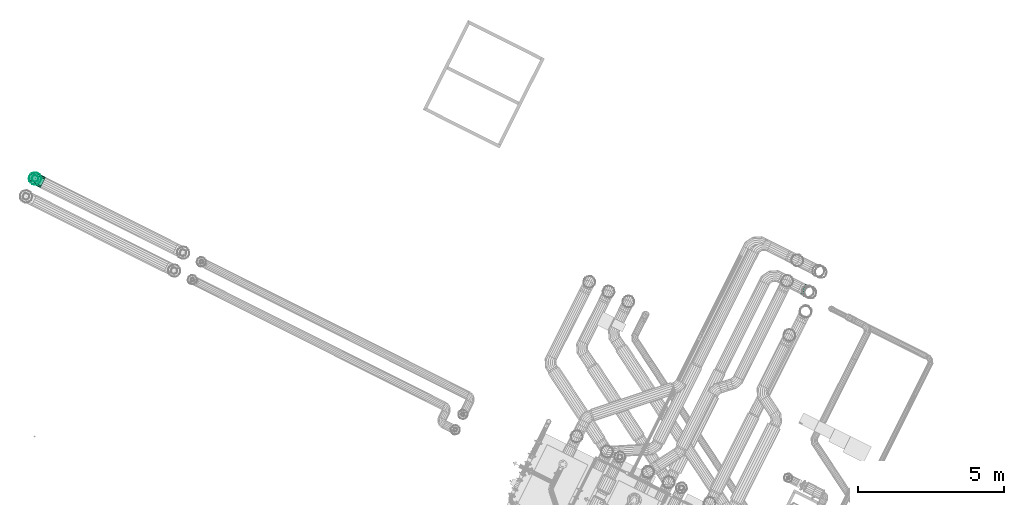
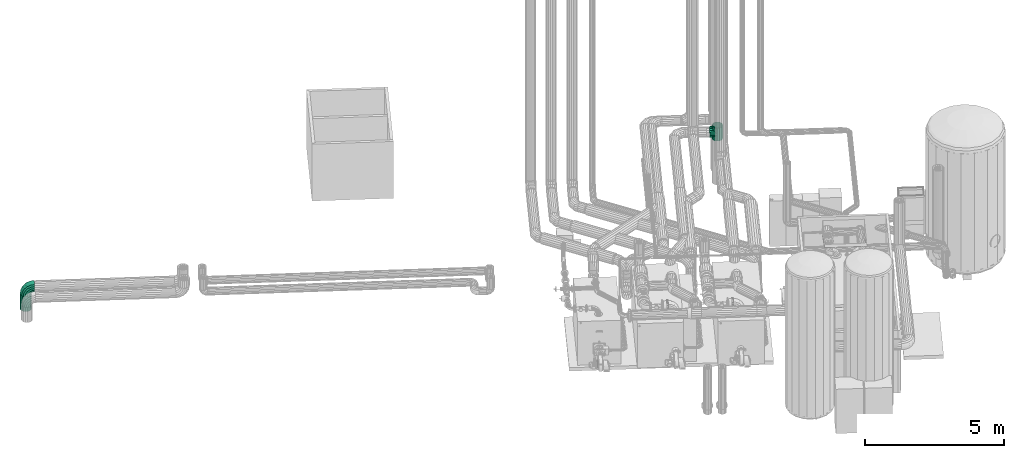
# One storey, part 171 of 206: 2 flow segments, 1 flow fitting.
"""IFC2X3 building model written with IfcOpenShell, lengths in metres."""

from ifc_helpers import new_model, si_unit, derived_unit, direction, frame, origin, place, context, subcontext, project, spatial, face_set, surface_model, source, transform, mapped, material, type_object, type_shapes, element, save


model = new_model("IFC2X3")

# Units and contexts
model_context = context("Model", 3, precision=5.2338327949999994e-05, world=origin(), true_north=direction((0.0, 1.0)))
body_context = subcontext(model_context, "Body", "Model", "MODEL_VIEW")
ifc_project = project(units=[si_unit("LENGTHUNIT", "METRE"), si_unit("AREAUNIT", "SQUARE_METRE"), si_unit("VOLUMEUNIT", "CUBIC_METRE"), si_unit("MASSUNIT", "GRAM", prefix="KILO"), si_unit("PLANEANGLEUNIT", "RADIAN"), derived_unit("THERMALTRANSMITTANCEUNIT", [(si_unit("MASSUNIT", "GRAM", prefix="KILO"), 1), (si_unit("THERMODYNAMICTEMPERATUREUNIT", "KELVIN"), -1), (si_unit("TIMEUNIT", "SECOND"), -3)])], contexts=[model_context])

# Site, building, storey
site_placement = place(None, frame((0.0, 0.0, 0.0), z_axis=(0.0, 0.0, 1.0), x_axis=(0.8939966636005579, -0.4480736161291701, 0.0)))
site = spatial("IfcSite", under=ifc_project, at=site_placement, Name="Default", CompositionType="ELEMENT")
building_placement = place(site_placement, origin())
building = spatial("IfcBuilding", under=site, at=building_placement, CompositionType="ELEMENT")
storey_placement = place(building_placement, origin())
storey = spatial("IfcBuildingStorey", under=building, at=storey_placement, Name="Erdgeschoss", CompositionType="ELEMENT", Elevation=0.0)

# Flow segments
ifc_material_1 = material(Name="IfcSurfaceStyle #1741")
distribution_element_type_1 = type_object("IfcDistributionElementType", Name="Rohrbogen 292566:Rohrbogen 292566", material=ifc_material_1)
shared_shape_1 = source(origin(), body_context, "Body", "SurfaceModel", [
    surface_model("IfcFaceBasedSurfaceModel", [(1.2212699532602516, 8.012208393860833, 2.4273484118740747), (1.221269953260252, 8.049676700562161, 2.4207417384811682), (1.0952085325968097, 8.049676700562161, 2.4007755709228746), (1.093166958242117, 8.012208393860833, 2.407058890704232), (0.9814868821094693, 8.04967670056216, 2.342831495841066), (0.9776035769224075, 8.012208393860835, 2.34817640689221), (0.8912368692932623, 8.04967670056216, 2.252581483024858), (0.8858919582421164, 8.012208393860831, 2.2564647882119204), (0.8332927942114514, 8.049676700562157, 2.1388598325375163), (0.8270094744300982, 8.012208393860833, 2.1409014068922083), (0.813326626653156, 8.049676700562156, 2.0127984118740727), (0.8067199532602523, 8.012208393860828, 2.0127984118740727), (1.2212699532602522, 8.082625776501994, 2.4017185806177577), (1.1010870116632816, 8.082625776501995, 2.3826834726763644), (0.9926684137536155, 8.082625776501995, 2.3274414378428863), (0.9066269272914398, 8.082625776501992, 2.2413999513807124), (0.851384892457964, 8.082625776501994, 2.132981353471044), (0.8323497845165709, 8.08262577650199, 2.0127984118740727), (1.2212699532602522, 8.107081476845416, 2.372573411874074), (1.1100933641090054, 8.10708147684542, 2.3549647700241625), (1.0097995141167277, 8.10708147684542, 2.30386250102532), (0.9302058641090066, 8.107081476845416, 2.224268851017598), (0.8791035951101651, 8.107081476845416, 2.12397500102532), (0.8614949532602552, 8.107081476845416, 2.0127984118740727), (1.2212699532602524, 8.12009408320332, 2.336821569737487), (1.1211412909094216, 8.120094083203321, 2.3209627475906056), (1.0308139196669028, 8.12009408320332, 2.2749386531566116), (0.9591297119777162, 8.12009408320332, 2.2032544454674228), (0.9131056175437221, 8.120094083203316, 2.1129270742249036), (0.8972467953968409, 8.120094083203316, 2.0127984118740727), (1.2212699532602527, 8.12009408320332, 2.298775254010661), (1.1328982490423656, 8.12009408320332, 2.2847785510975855), (1.0531769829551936, 8.120094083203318, 2.2441585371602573), (0.9899098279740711, 8.120094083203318, 2.1808913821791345), (0.9492898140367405, 8.120094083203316, 2.101170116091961), (0.9352931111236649, 8.120094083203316, 2.012798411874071), (1.2212699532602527, 8.107081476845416, 2.2630234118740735), (1.143946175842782, 8.107081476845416, 2.2507765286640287), (1.0741913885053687, 8.107081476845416, 2.2152346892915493), (1.0188336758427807, 8.107081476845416, 2.159876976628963), (0.983291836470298, 8.107081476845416, 2.090122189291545), (0.9710449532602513, 8.107081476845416, 2.0127984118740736), (1.2212699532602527, 8.082625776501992, 2.23387824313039), (1.1529525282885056, 8.082625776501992, 2.223057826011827), (1.0913224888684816, 8.082625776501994, 2.191655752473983), (1.0424126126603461, 8.082625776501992, 2.142745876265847), (1.0110105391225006, 8.082625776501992, 2.081115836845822), (1.000190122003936, 8.08262577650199, 2.012798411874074), (1.2212699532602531, 8.049676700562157, 2.2148550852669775), (1.158831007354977, 8.049676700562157, 2.204965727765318), (1.1025040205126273, 8.049676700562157, 2.1762656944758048), (1.0578026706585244, 8.04967670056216, 2.131564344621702), (1.0291026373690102, 8.049676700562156, 2.0752373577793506), (1.0192132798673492, 8.049676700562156, 2.012798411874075), (1.2212699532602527, 8.012208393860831, 2.2082484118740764), (1.160872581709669, 8.012208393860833, 2.1986824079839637), (1.1063873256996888, 8.012208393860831, 2.1709207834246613), (1.0631475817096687, 8.012208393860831, 2.1276810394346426), (1.0353859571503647, 8.012208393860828, 2.0731957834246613), (1.0258199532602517, 8.01220839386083, 2.012798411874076), (1.2212699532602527, 7.974740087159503, 2.2148550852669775), (1.1588310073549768, 7.974740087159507, 2.2049657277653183), (1.1025040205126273, 7.974740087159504, 2.176265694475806), (1.057802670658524, 7.974740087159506, 2.1315643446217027), (1.02910263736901, 7.974740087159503, 2.0752373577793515), (1.0192132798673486, 7.974740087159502, 2.012798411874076), (1.2212699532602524, 7.94179101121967, 2.233878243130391), (1.1529525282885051, 7.941791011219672, 2.22305782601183), (1.0913224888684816, 7.941791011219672, 2.1916557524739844), (1.0424126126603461, 7.94179101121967, 2.142745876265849), (1.0110105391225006, 7.941791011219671, 2.081115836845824), (1.0001901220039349, 7.941791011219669, 2.012798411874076), (1.2212699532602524, 7.917335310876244, 2.2630234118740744), (1.1439461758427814, 7.917335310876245, 2.250776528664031), (1.0741913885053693, 7.917335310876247, 2.2152346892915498), (1.018833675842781, 7.917335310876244, 2.1598769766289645), (0.9832918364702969, 7.917335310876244, 2.090122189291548), (0.9710449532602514, 7.917335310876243, 2.0127984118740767), (1.2212699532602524, 7.904322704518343, 2.2987752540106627), (1.132898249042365, 7.904322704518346, 2.2847785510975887), (1.053176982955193, 7.904322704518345, 2.2441585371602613), (0.9899098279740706, 7.904322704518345, 2.180891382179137), (0.9492898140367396, 7.904322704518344, 2.1011701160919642), (0.9352931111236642, 7.904322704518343, 2.012798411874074), (1.2212699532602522, 7.904322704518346, 2.336821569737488), (1.1211412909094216, 7.904322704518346, 2.320962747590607), (1.0308139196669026, 7.904322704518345, 2.2749386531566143), (0.9591297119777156, 7.904322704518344, 2.203254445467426), (0.9131056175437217, 7.904322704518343, 2.1129270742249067), (0.8972467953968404, 7.904322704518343, 2.0127984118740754), (1.2212699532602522, 7.917335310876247, 2.372573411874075), (1.1100933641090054, 7.917335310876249, 2.3549647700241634), (1.0097995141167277, 7.917335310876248, 2.303862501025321), (0.9302058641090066, 7.917335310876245, 2.224268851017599), (0.8791035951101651, 7.917335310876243, 2.123975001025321), (0.8614949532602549, 7.917335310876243, 2.0127984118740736), (1.2212699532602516, 7.941791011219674, 2.401718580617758), (1.1010870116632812, 7.941791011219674, 2.3826834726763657), (0.9926684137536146, 7.9417910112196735, 2.327441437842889), (0.9066269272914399, 7.941791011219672, 2.241399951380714), (0.8513848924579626, 7.941791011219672, 2.1329813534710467), (0.8323497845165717, 7.941791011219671, 2.012798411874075), (1.2212699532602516, 7.974740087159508, 2.4207417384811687), (1.0952085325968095, 7.974740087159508, 2.400775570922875), (0.9814868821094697, 7.974740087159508, 2.342831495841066), (0.8912368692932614, 7.974740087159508, 2.25258148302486), (0.833292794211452, 7.974740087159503, 2.1388598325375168), (0.8133266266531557, 7.974740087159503, 2.0127984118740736), (1.221269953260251, 8.012208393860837, 2.5273484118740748), (1.2212699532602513, 8.083878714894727, 2.5147110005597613), (1.0661704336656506, 8.083878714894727, 2.490145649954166), (1.0622652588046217, 8.012208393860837, 2.5021645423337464), (0.9262531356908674, 8.083878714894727, 2.418854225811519), (0.9188250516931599, 8.012208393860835, 2.429078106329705), (0.8152141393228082, 8.083878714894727, 2.3078152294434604), (0.8049902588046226, 8.012208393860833, 2.3152433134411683), (0.7439227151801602, 8.083878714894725, 2.167897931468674), (0.7319038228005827, 8.012208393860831, 2.171803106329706), (0.7193573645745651, 8.083878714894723, 2.012798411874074), (0.7067199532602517, 8.01220839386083, 2.012798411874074), (1.2212699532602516, 8.146904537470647, 2.4783230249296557), (1.0774149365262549, 8.146904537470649, 2.455538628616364), (0.9476414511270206, 8.146904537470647, 2.3894157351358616), (0.844652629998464, 8.146904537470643, 2.2864269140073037), (0.7785297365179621, 8.146904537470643, 2.156653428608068), (0.755745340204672, 8.146904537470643, 2.0127984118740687), (1.2212699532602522, 8.193684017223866, 2.4225734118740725), (1.0946425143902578, 8.193684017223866, 2.402517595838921), (0.9804102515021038, 8.193684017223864, 2.3443133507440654), (0.8897550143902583, 8.193684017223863, 2.2536581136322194), (0.831550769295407, 8.19368401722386, 2.1394258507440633), (0.8114949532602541, 8.19368401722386, 2.0127984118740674), (1.2212699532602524, 8.21857485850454, 2.354186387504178), (1.1157752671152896, 8.21857485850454, 2.3374776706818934), (1.0206071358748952, 8.218574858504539, 2.288987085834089), (0.945081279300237, 8.218574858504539, 2.213461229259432), (0.8965906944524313, 8.218574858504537, 2.1182930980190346), (0.8798819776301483, 8.218574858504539, 2.0127984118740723), (1.2212699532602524, 8.218574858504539, 2.2814104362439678), (1.1382642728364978, 8.218574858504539, 2.268263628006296), (1.0633837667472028, 8.21857485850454, 2.2301101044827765), (1.0039582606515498, 8.218574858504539, 2.1706845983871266), (0.9658047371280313, 8.218574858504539, 2.095804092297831), (0.952657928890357, 8.218574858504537, 2.0127984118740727), (1.2212699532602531, 8.193684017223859, 2.213023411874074), (1.1593970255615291, 8.193684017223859, 2.2032237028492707), (1.1035806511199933, 8.19368401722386, 2.1747838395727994), (1.0592845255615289, 8.19368401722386, 2.130487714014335), (1.0308446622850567, 8.19368401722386, 2.0746713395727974), (1.0210449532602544, 8.19368401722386, 2.012798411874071), (1.2212699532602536, 8.146904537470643, 2.15727379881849), (1.1766246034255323, 8.146904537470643, 2.1502026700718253), (1.1363494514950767, 8.146904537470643, 2.129681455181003), (1.104386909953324, 8.146904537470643, 2.09771891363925), (1.083865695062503, 8.146904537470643, 2.057443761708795), (1.0767945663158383, 8.146904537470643, 2.0127984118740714), (1.2212699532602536, 8.083878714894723, 2.120885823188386), (1.1878691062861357, 8.083878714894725, 2.1155956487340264), (1.1577377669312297, 8.083878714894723, 2.1002429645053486), (1.133825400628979, 8.083878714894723, 2.0763305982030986), (1.1184727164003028, 8.083878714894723, 2.0461992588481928), (1.113182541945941, 8.083878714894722, 2.0127984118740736), (1.2212699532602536, 8.01220839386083, 2.1082484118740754), (1.1917742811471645, 8.012208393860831, 2.103576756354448), (1.1651658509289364, 8.01220839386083, 2.0900190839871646), (1.1440492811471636, 8.012208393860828, 2.068902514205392), (1.1304916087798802, 8.01220839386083, 2.042294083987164), (1.1258199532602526, 8.01220839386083, 2.0127984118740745), (1.2212699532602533, 7.940538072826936, 2.1208858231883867), (1.1878691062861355, 7.940538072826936, 2.1155956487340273), (1.157737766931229, 7.940538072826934, 2.1002429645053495), (1.133825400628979, 7.940538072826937, 2.0763305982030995), (1.118472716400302, 7.940538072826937, 2.0461992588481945), (1.1131825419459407, 7.940538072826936, 2.012798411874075), (1.2212699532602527, 7.877512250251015, 2.1572737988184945), (1.1766246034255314, 7.877512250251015, 2.150202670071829), (1.1363494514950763, 7.877512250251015, 2.1296814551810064), (1.1043869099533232, 7.877512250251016, 2.0977189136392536), (1.0838656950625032, 7.877512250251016, 2.0574437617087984), (1.0767945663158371, 7.877512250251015, 2.0127984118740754), (1.2212699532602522, 7.830732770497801, 2.213023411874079), (1.1593970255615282, 7.830732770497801, 2.203223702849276), (1.1035806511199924, 7.830732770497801, 2.174783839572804), (1.0592845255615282, 7.830732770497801, 2.13048771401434), (1.030844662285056, 7.830732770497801, 2.0746713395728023), (1.0210449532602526, 7.8307327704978, 2.012798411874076), (1.221269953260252, 7.805841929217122, 2.2814104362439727), (1.1382642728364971, 7.805841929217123, 2.268263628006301), (1.063383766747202, 7.805841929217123, 2.230110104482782), (1.003958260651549, 7.805841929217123, 2.170684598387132), (0.96580473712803, 7.805841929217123, 2.095804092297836), (0.9526579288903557, 7.805841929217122, 2.0127984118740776), (1.2212699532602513, 7.805841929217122, 2.3541863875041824), (1.1157752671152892, 7.805841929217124, 2.337477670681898), (1.0206071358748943, 7.805841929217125, 2.288987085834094), (0.9450812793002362, 7.805841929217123, 2.213461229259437), (0.8965906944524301, 7.805841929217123, 2.1182930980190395), (0.8798819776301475, 7.805841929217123, 2.012798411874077), (1.2212699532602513, 7.830732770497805, 2.4225734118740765), (1.094642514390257, 7.830732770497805, 2.402517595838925), (0.9804102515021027, 7.8307327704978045, 2.3443133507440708), (0.8897550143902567, 7.830732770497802, 2.2536581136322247), (0.8315507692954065, 7.8307327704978, 2.1394258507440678), (0.8114949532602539, 7.830732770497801, 2.012798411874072), (1.2212699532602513, 7.877512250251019, 2.4783230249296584), (1.0774149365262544, 7.87751225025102, 2.455538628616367), (0.9476414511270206, 7.87751225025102, 2.389415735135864), (0.8446526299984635, 7.877512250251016, 2.2864269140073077), (0.7785297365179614, 7.877512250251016, 2.1566534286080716), (0.7557453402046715, 7.877512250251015, 2.0127984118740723), (1.221269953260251, 7.940538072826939, 2.514711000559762), (1.0661704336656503, 7.940538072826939, 2.4901456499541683), (0.9262531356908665, 7.940538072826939, 2.418854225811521), (0.815214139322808, 7.940538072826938, 2.3078152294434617), (0.7439227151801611, 7.9405380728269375, 2.167897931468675), (0.7193573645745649, 7.9405380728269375, 2.0127984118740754)], [face_set([[[0, 1, 2, 3]], [[3, 2, 4, 5]], [[5, 4, 6, 7]], [[7, 6, 8, 9]], [[9, 8, 10, 11]], [[1, 12, 13, 2]], [[2, 13, 14, 4]], [[4, 14, 15, 6]], [[6, 15, 16, 8]], [[8, 16, 17, 10]], [[12, 18, 19, 13]], [[13, 19, 20, 14]], [[14, 20, 21, 15]], [[15, 21, 22, 16]], [[16, 22, 23, 17]], [[18, 24, 25, 19]], [[19, 25, 26, 20]], [[20, 26, 27, 21]], [[21, 27, 28, 22]], [[22, 28, 29, 23]], [[24, 30, 31, 25]], [[25, 31, 32, 26]], [[26, 32, 33, 27]], [[27, 33, 34, 28]], [[28, 34, 35, 29]], [[30, 36, 37, 31]], [[31, 37, 38, 32]], [[32, 38, 39, 33]], [[33, 39, 40, 34]], [[34, 40, 41, 35]], [[36, 42, 43, 37]], [[37, 43, 44, 38]], [[38, 44, 45, 39]], [[39, 45, 46, 40]], [[40, 46, 47, 41]], [[42, 48, 49, 43]], [[43, 49, 50, 44]], [[44, 50, 51, 45]], [[45, 51, 52, 46]], [[46, 52, 53, 47]], [[48, 54, 55, 49]], [[49, 55, 56, 50]], [[50, 56, 57, 51]], [[51, 57, 58, 52]], [[52, 58, 59, 53]], [[54, 60, 61, 55]], [[55, 61, 62, 56]], [[56, 62, 63, 57]], [[57, 63, 64, 58]], [[58, 64, 65, 59]], [[60, 66, 67, 61]], [[61, 67, 68, 62]], [[62, 68, 69, 63]], [[63, 69, 70, 64]], [[64, 70, 71, 65]], [[66, 72, 73, 67]], [[67, 73, 74, 68]], [[68, 74, 75, 69]], [[69, 75, 76, 70]], [[70, 76, 77, 71]], [[72, 78, 79, 73]], [[73, 79, 80, 74]], [[74, 80, 81, 75]], [[75, 81, 82, 76]], [[76, 82, 83, 77]], [[78, 84, 85, 79]], [[79, 85, 86, 80]], [[80, 86, 87, 81]], [[81, 87, 88, 82]], [[82, 88, 89, 83]], [[84, 90, 91, 85]], [[85, 91, 92, 86]], [[86, 92, 93, 87]], [[87, 93, 94, 88]], [[88, 94, 95, 89]], [[90, 96, 97, 91]], [[91, 97, 98, 92]], [[92, 98, 99, 93]], [[93, 99, 100, 94]], [[94, 100, 101, 95]], [[96, 102, 103, 97]], [[97, 103, 104, 98]], [[98, 104, 105, 99]], [[99, 105, 106, 100]], [[100, 106, 107, 101]], [[102, 0, 3, 103]], [[103, 3, 5, 104]], [[104, 5, 7, 105]], [[105, 7, 9, 106]], [[106, 9, 11, 107]], [[108, 109, 110, 111]], [[111, 110, 112, 113]], [[113, 112, 114, 115]], [[115, 114, 116, 117]], [[117, 116, 118, 119]], [[109, 120, 121, 110]], [[110, 121, 122, 112]], [[112, 122, 123, 114]], [[114, 123, 124, 116]], [[116, 124, 125, 118]], [[120, 126, 127, 121]], [[121, 127, 128, 122]], [[122, 128, 129, 123]], [[123, 129, 130, 124]], [[124, 130, 131, 125]], [[126, 132, 133, 127]], [[127, 133, 134, 128]], [[128, 134, 135, 129]], [[129, 135, 136, 130]], [[130, 136, 137, 131]], [[132, 138, 139, 133]], [[133, 139, 140, 134]], [[134, 140, 141, 135]], [[135, 141, 142, 136]], [[136, 142, 143, 137]], [[138, 144, 145, 139]], [[139, 145, 146, 140]], [[140, 146, 147, 141]], [[141, 147, 148, 142]], [[142, 148, 149, 143]], [[144, 150, 151, 145]], [[145, 151, 152, 146]], [[146, 152, 153, 147]], [[147, 153, 154, 148]], [[148, 154, 155, 149]], [[150, 156, 157, 151]], [[151, 157, 158, 152]], [[152, 158, 159, 153]], [[153, 159, 160, 154]], [[154, 160, 161, 155]], [[156, 162, 163, 157]], [[157, 163, 164, 158]], [[158, 164, 165, 159]], [[159, 165, 166, 160]], [[160, 166, 167, 161]], [[162, 168, 169, 163]], [[163, 169, 170, 164]], [[164, 170, 171, 165]], [[165, 171, 172, 166]], [[166, 172, 173, 167]], [[168, 174, 175, 169]], [[169, 175, 176, 170]], [[170, 176, 177, 171]], [[171, 177, 178, 172]], [[172, 178, 179, 173]], [[174, 180, 181, 175]], [[175, 181, 182, 176]], [[176, 182, 183, 177]], [[177, 183, 184, 178]], [[178, 184, 185, 179]], [[180, 186, 187, 181]], [[181, 187, 188, 182]], [[182, 188, 189, 183]], [[183, 189, 190, 184]], [[184, 190, 191, 185]], [[186, 192, 193, 187]], [[187, 193, 194, 188]], [[188, 194, 195, 189]], [[189, 195, 196, 190]], [[190, 196, 197, 191]], [[192, 198, 199, 193]], [[193, 199, 200, 194]], [[194, 200, 201, 195]], [[195, 201, 202, 196]], [[196, 202, 203, 197]], [[198, 204, 205, 199]], [[199, 205, 206, 200]], [[200, 206, 207, 201]], [[201, 207, 208, 202]], [[202, 208, 209, 203]], [[204, 210, 211, 205]], [[205, 211, 212, 206]], [[206, 212, 213, 207]], [[207, 213, 214, 208]], [[208, 214, 215, 209]], [[210, 108, 111, 211]], [[211, 111, 113, 212]], [[212, 113, 115, 213]], [[213, 115, 117, 214]], [[214, 117, 119, 215]]])]),
])
type_shapes(distribution_element_type_1, [shared_shape_1])
flow_segment_1_placement = place(storey_placement, origin())
element("IfcFlowSegment", 1, at=flow_segment_1_placement, inside=storey, type_object=distribution_element_type_1, material=ifc_material_1, Name="Rohrbogen", ObjectType="Rohrbogen", context=body_context, shape_type="MappedRepresentation", body=[
    mapped(shared_shape_1, transform((0.0, 0.0, 0.0), scale=1.0)),
])
distribution_element_type_2 = type_object("IfcDistributionElementType", Name="Stahlrohr nach DIN 2448 297293:Stahlrohr nach DIN 2448 297293", material=ifc_material_1)
shared_shape_2 = source(origin(), body_context, "Body", "SurfaceModel", [
    surface_model("IfcFaceBasedSurfaceModel", [(0.9162699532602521, 7.902658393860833, 2.012798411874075), (0.8788016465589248, 7.909265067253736, 2.012798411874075), (0.8788016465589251, 7.909265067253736, 1.35), (0.916269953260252, 7.902658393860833, 1.35), (0.8458525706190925, 7.928288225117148, 2.012798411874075), (0.8458525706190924, 7.928288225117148, 1.35), (0.8213968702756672, 7.957433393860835, 2.012798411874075), (0.8213968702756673, 7.957433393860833, 1.35), (0.8083842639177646, 7.9931852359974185, 2.012798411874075), (0.8083842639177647, 7.99318523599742, 1.35), (0.8083842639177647, 8.031231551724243, 2.012798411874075), (0.8083842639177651, 8.031231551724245, 1.35), (0.8213968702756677, 8.066983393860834, 2.012798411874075), (0.8213968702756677, 8.066983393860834, 1.35), (0.8458525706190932, 8.096128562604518, 2.012798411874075), (0.8458525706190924, 8.096128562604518, 1.35), (0.8788016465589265, 8.115151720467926, 2.012798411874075), (0.8788016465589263, 8.115151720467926, 1.35), (0.9162699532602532, 8.121758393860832, 2.012798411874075), (0.916269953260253, 8.121758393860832, 1.35), (0.9537382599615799, 8.115151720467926, 2.012798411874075), (0.9537382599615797, 8.115151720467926, 1.35), (0.9866873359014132, 8.096128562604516, 2.012798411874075), (0.9866873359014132, 8.096128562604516, 1.35), (1.0111430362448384, 8.06698339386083, 2.012798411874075), (1.0111430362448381, 8.066983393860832, 1.35), (1.0241556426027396, 8.031231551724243, 2.012798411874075), (1.0241556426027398, 8.031231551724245, 1.35), (1.0241556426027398, 7.9931852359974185, 2.012798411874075), (1.02415564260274, 7.993185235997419, 1.35), (1.0111430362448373, 7.957433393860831, 2.012798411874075), (1.011143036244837, 7.957433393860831, 1.35), (0.9866873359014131, 7.928288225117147, 2.012798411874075), (0.9866873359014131, 7.928288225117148, 1.35), (0.9537382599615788, 7.909265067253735, 2.012798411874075), (0.953738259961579, 7.909265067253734, 1.35), (0.9162699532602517, 7.802658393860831, 2.012798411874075), (0.8445996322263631, 7.815295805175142, 2.012798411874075), (0.8445996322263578, 7.815295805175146, 1.35), (0.916269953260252, 7.802658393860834, 1.35), (0.7815738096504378, 7.85168378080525, 2.012798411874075), (0.7815738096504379, 7.851683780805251, 1.35), (0.7347943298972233, 7.907433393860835, 2.012798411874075), (0.7347943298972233, 7.907433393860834, 1.35), (0.7099034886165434, 7.975820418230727, 2.012798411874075), (0.7099034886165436, 7.975820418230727, 1.35), (0.7099034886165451, 8.048596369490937, 2.012798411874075), (0.7099034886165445, 8.048596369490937, 1.35), (0.7347943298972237, 8.116983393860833, 2.012798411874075), (0.734794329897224, 8.116983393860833, 1.35), (0.781573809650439, 8.172733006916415, 2.012798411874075), (0.7815738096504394, 8.172733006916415, 1.35), (0.8445996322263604, 8.209120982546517, 2.012798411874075), (0.8445996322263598, 8.20912098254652, 1.35), (0.9162699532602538, 8.22175839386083, 2.012798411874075), (0.9162699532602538, 8.221758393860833, 1.35), (0.9879402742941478, 8.20912098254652, 2.012798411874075), (0.9879402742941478, 8.20912098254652, 1.35), (1.050966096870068, 8.172733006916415, 2.012798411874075), (1.050966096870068, 8.172733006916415, 1.35), (1.0977455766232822, 8.11698339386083, 2.012798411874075), (1.0977455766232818, 8.11698339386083, 1.35), (1.1226364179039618, 8.048596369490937, 2.012798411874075), (1.1226364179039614, 8.048596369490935, 1.35), (1.1226364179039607, 7.975820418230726, 2.012798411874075), (1.1226364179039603, 7.975820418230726, 1.35), (1.097745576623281, 7.907433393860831, 2.012798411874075), (1.0977455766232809, 7.907433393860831, 1.35), (1.050966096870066, 7.851683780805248, 2.012798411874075), (1.0509660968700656, 7.85168378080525, 1.35), (0.9879402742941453, 7.815295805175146, 2.012798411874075), (0.9879402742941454, 7.815295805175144, 1.35)], [face_set([[[0, 1, 2, 3]], [[1, 4, 5, 2]], [[4, 6, 7, 5]], [[6, 8, 9, 7]], [[8, 10, 11, 9]], [[10, 12, 13, 11]], [[12, 14, 15, 13]], [[14, 16, 17, 15]], [[16, 18, 19, 17]], [[18, 20, 21, 19]], [[20, 22, 23, 21]], [[22, 24, 25, 23]], [[24, 26, 27, 25]], [[26, 28, 29, 27]], [[28, 30, 31, 29]], [[30, 32, 33, 31]], [[32, 34, 35, 33]], [[34, 0, 3, 35]], [[36, 37, 38, 39]], [[37, 40, 41, 38]], [[40, 42, 43, 41]], [[42, 44, 45, 43]], [[44, 46, 47, 45]], [[46, 48, 49, 47]], [[48, 50, 51, 49]], [[50, 52, 53, 51]], [[52, 54, 55, 53]], [[54, 56, 57, 55]], [[56, 58, 59, 57]], [[58, 60, 61, 59]], [[60, 62, 63, 61]], [[62, 64, 65, 63]], [[64, 66, 67, 65]], [[66, 68, 69, 67]], [[68, 70, 71, 69]], [[70, 36, 39, 71]]])]),
])
type_shapes(distribution_element_type_2, [shared_shape_2])
flow_segment_2_placement = place(storey_placement, origin())
element("IfcFlowSegment", 2, at=flow_segment_2_placement, inside=storey, type_object=distribution_element_type_2, material=ifc_material_1, Name="Stahlrohr nach DIN 2448", ObjectType="Stahlrohr nach DIN 2448", context=body_context, shape_type="MappedRepresentation", body=[
    mapped(shared_shape_2, transform((0.0, 0.0, 0.0), scale=1.0)),
])

# Flow fitting
ifc_material_2 = material(Name="IfcSurfaceStyle #251447")
distribution_element_type_3 = type_object("IfcDistributionElementType", Name="Abzweigstück 90° 622630:Abzweigstück 90° 622630", material=ifc_material_2)
shared_shape_3 = source(origin(), body_context, "Body", "SurfaceModel", [
    surface_model("IfcFaceBasedSurfaceModel", [(26.38079138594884, 16.60999999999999, 2.495000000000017), (26.44919541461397, 16.597938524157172, 2.495000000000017), (26.44919541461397, 16.59793852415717, 1.925000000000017), (26.380791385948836, 16.609999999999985, 1.925000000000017), (26.50934890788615, 16.563208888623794, 2.495000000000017), (26.509348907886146, 16.563208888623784, 1.925000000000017), (26.553996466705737, 16.509999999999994, 2.495000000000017), (26.55399646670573, 16.509999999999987, 1.925000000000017), (26.577752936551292, 16.44472963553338, 2.495000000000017), (26.577752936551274, 16.444729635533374, 1.925000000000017), (26.577752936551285, 16.37527036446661, 2.495000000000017), (26.577752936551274, 16.3752703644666, 1.925000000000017), (26.55399646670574, 16.31, 2.495000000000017), (26.553996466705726, 16.309999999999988, 1.925000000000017), (26.509348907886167, 16.2567911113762, 2.495000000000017), (26.509348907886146, 16.25679111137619, 1.925000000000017), (26.44919541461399, 16.22206147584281, 2.495000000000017), (26.44919541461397, 16.222061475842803, 1.925000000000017), (26.380791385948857, 16.209999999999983, 2.495000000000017), (26.380791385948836, 16.209999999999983, 1.925000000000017), (26.312387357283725, 16.222061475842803, 2.495000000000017), (26.3123873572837, 16.22206147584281, 1.925000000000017), (26.252233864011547, 16.256791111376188, 2.495000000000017), (26.25223386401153, 16.25679111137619, 1.925000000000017), (26.207586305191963, 16.309999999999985, 2.495000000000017), (26.207586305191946, 16.30999999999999, 1.925000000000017), (26.183829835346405, 16.375270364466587, 2.495000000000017), (26.183829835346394, 16.3752703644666, 1.925000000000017), (26.183829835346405, 16.444729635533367, 2.495000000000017), (26.183829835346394, 16.444729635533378, 1.925000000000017), (26.20758630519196, 16.509999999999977, 2.495000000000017), (26.207586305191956, 16.509999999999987, 1.925000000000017), (26.252233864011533, 16.563208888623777, 2.495000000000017), (26.25223386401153, 16.563208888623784, 1.925000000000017), (26.312387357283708, 16.597938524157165, 2.495000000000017), (26.312387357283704, 16.59793852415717, 1.925000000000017), (26.180791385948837, 16.40999999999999, 2.010000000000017), (26.192852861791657, 16.341595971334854, 2.0220614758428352), (26.095791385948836, 16.341595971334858, 2.0220614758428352), (26.09579138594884, 16.40999999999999, 2.0100000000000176), (26.227582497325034, 16.28144247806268, 2.056791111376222), (26.09579138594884, 16.28144247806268, 2.056791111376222), (26.28079138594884, 16.2367949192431, 2.110000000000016), (26.09579138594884, 16.236794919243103, 2.1100000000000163), (26.346061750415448, 16.213038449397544, 2.175270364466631), (26.09579138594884, 16.213038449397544, 2.175270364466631), (26.346061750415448, 16.213038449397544, 2.244729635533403), (26.09579138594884, 16.213038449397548, 2.244729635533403), (26.28079138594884, 16.236794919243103, 2.310000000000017), (26.09579138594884, 16.236794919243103, 2.310000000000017), (26.227582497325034, 16.28144247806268, 2.3632088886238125), (26.09579138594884, 16.28144247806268, 2.3632088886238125), (26.192852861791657, 16.341595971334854, 2.397938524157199), (26.095791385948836, 16.341595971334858, 2.397938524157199), (26.180791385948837, 16.40999999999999, 2.4100000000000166), (26.09579138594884, 16.40999999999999, 2.4100000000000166), (26.192852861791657, 16.47840402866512, 2.397938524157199), (26.09579138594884, 16.47840402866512, 2.397938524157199), (26.227582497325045, 16.5385575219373, 2.363208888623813), (26.09579138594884, 16.5385575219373, 2.363208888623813), (26.28079138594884, 16.583205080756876, 2.3100000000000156), (26.09579138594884, 16.583205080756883, 2.3100000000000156), (26.34606175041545, 16.606961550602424, 2.2447296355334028), (26.09579138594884, 16.606961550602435, 2.2447296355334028), (26.34606175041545, 16.606961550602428, 2.175270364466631), (26.09579138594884, 16.606961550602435, 2.175270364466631), (26.28079138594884, 16.583205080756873, 2.110000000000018), (26.09579138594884, 16.583205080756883, 2.1100000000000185), (26.227582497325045, 16.5385575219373, 2.0567911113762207), (26.09579138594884, 16.5385575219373, 2.0567911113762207), (26.192852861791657, 16.47840402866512, 2.0220614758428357), (26.09579138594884, 16.47840402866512, 2.0220614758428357)], [face_set([[[0, 1, 2, 3]], [[1, 4, 5, 2]], [[4, 6, 7, 5]], [[6, 8, 9, 7]], [[8, 10, 11, 9]], [[10, 12, 13, 11]], [[12, 14, 15, 13]], [[14, 16, 17, 15]], [[16, 18, 19, 17]], [[18, 20, 21, 19]], [[20, 22, 23, 21]], [[22, 24, 25, 23]], [[24, 26, 27, 25]], [[26, 28, 29, 27]], [[28, 30, 31, 29]], [[30, 32, 33, 31]], [[32, 34, 35, 33]], [[34, 0, 3, 35]], [[36, 37, 38, 39]], [[37, 40, 41, 38]], [[40, 42, 43, 41]], [[42, 44, 45, 43]], [[44, 46, 47, 45]], [[46, 48, 49, 47]], [[48, 50, 51, 49]], [[50, 52, 53, 51]], [[52, 54, 55, 53]], [[54, 56, 57, 55]], [[56, 58, 59, 57]], [[58, 60, 61, 59]], [[60, 62, 63, 61]], [[62, 64, 65, 63]], [[64, 66, 67, 65]], [[66, 68, 69, 67]], [[68, 70, 71, 69]], [[70, 36, 39, 71]]])]),
])
type_shapes(distribution_element_type_3, [shared_shape_3])
flow_fitting_placement = place(storey_placement, origin())
element("IfcFlowFitting", 3, at=flow_fitting_placement, inside=storey, type_object=distribution_element_type_3, material=ifc_material_2, Name="Abzweigstück 90°", ObjectType="Abzweigstück 90°", context=body_context, shape_type="MappedRepresentation", body=[
    mapped(shared_shape_3, transform((0.0, 0.0, 0.0), scale=1.0)),
])

save(model, "model.ifc")
